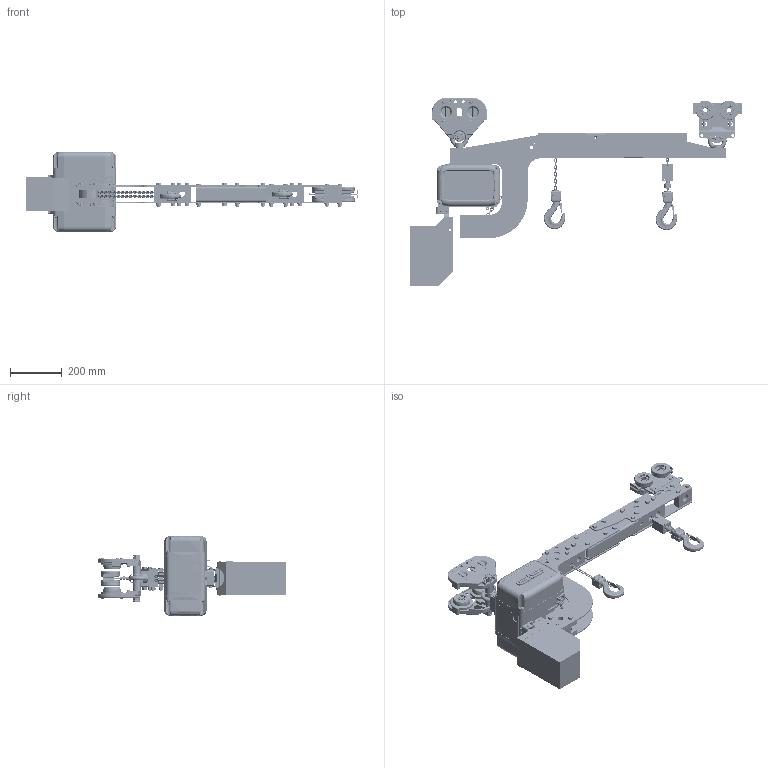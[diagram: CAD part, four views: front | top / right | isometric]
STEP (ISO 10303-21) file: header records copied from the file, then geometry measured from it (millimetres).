
FILE_DESCRIPTION((''),'2;1');
FILE_NAME('J:\gissni_cad\Light Modelle\9401_9262_Massbild_GCHS_500_1.stp','2011-01-14T14:09:20',('gisjla3'),(''),'Autodesk Inventor 10','Autodesk Inventor 10','');
FILE_SCHEMA(('AUTOMOTIVE_DESIGN { 1 0 10303 214 1 1 1 1 }'));
Length unit declared in the file: millimetre
Products named in the file (30): 1; 9401_9257_M; 9401_9258_M; 9401_9259_M; DIN 582  M20; Kette kompl. 4 x12; 9039_0003_M; 9400_9288_M; 9401_9260_N; EHF 50 kompl; Tragbolzen Nr1; 9247_1002_M1; 9031_3218; 9031_3219; 9031_1576; ISO 4033  M16; 9248_9261_M; Fahrwerk kompl; 9306_1019_MA; ISO 2338 5 h8 x 24 - B; 9306_1043_M; 9306_1025_M; 9306_1024_M; 9031_3207; 9031_6001_M; Laufrolle klipsbar; 9306_1018_M3; DIN 625 - T1 6304 - 20 x 52 x 15; 9400_9295_M; 9401_9261_M
Assembly tree (87 placements, depth 4):
  1
    9401_9257_M
    9401_9258_M
    9401_9259_M
    DIN 582  M20  x2
    Kette kompl. 4 x12  x17
      9039_0003_M
    9400_9288_M
    9401_9260_N
    EHF 50 kompl
      Tragbolzen Nr1
        9247_1002_M1
        9031_3218  x2
        9031_3219  x20
        9031_1576  x2
        ISO 4033  M16  x2
      9248_9261_M  x2
    Fahrwerk kompl
      9306_1019_MA  x2
      ISO 2338 5 h8 x 24 - B  x2
      9306_1043_M  x2
      9306_1025_M  x2
      9306_1024_M
      9031_3207  x2
      9031_6001_M  x2
      Laufrolle klipsbar  x4
        9306_1018_M3
        DIN 625 - T1 6304 - 20 x 52 x 15
    9400_9295_M  x2
    9401_9261_M
Bounding box: 1288.26 x 730.5 x 311 mm (x, y, z)
Volume: 17079572.1 mm3; surface area: 2434204.1 mm2
Topology: 270 solids, 295 shells, 5644 faces, 13483 edges, 8268 vertices
Faces by surface type: plane 2479, cylinder 1605, bspline 921, torus 470, sphere 94, cone 75
Full cylindrical faces by diameter (mm): 2.85 x4, 4 x312, 4.917 x2, 4.99 x1, 5 x14, 5.5 x1, 6 x2, 6.083 x2, 6.5 x2, 7 x12, 8 x9, 8.5 x8, 8.586 x4, 9 x5, 10 x25, 10.5 x30, 11 x20, 11.8 x2, 12 x8, 12.414 x4, 13 x1, 13.5 x1, 15 x5, 16 x10, 17 x32, 17.5 x2, 18 x2, 18.1 x27, 18.5 x2, 19.5 x1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
Entity records: 218775 total; most frequent: CARTESIAN_POINT 134991, DIRECTION 16928, ORIENTED_EDGE 16620, EDGE_CURVE 8310, AXIS2_PLACEMENT_3D 5956, VERTEX_POINT 5444, VECTOR 5016, LINE 5016
